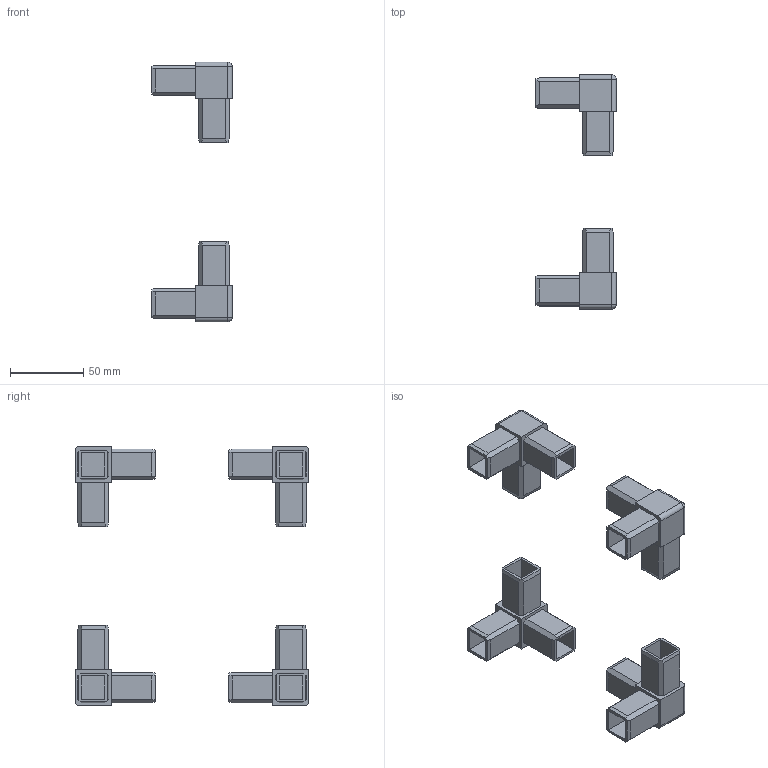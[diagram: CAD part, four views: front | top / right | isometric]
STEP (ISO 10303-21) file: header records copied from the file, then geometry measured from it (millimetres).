
FILE_DESCRIPTION (( 'STEP AP214' ), '1' );
FILE_NAME ('L15803 ENS.step', '2024-12-03T16:21:43', ( '' ), ( '' ), 'SwSTEP 2.0', 'SolidWorks 2023', '' );
FILE_SCHEMA (( 'AUTOMOTIVE_DESIGN' ));
Length unit declared in the file: millimetre
Products named in the file (2): L15803 ENS; L15803
Assembly tree (4 placements, depth 2):
  L15803 ENS
    L15803  x4
Bounding box: 55 x 160.11 x 177.63 mm (x, y, z)
Volume: 92810.5 mm3; surface area: 68635.1 mm2
Topology: 4 solids, 4 shells, 232 faces, 628 edges, 408 vertices
Faces by surface type: plane 216, cylinder 12, sphere 4
Entity records: 1865 total; most frequent: CARTESIAN_POINT 323, ORIENTED_EDGE 312, DIRECTION 292, EDGE_CURVE 156, VECTOR 150, LINE 150, VERTEX_POINT 102, AXIS2_PLACEMENT_3D 71
